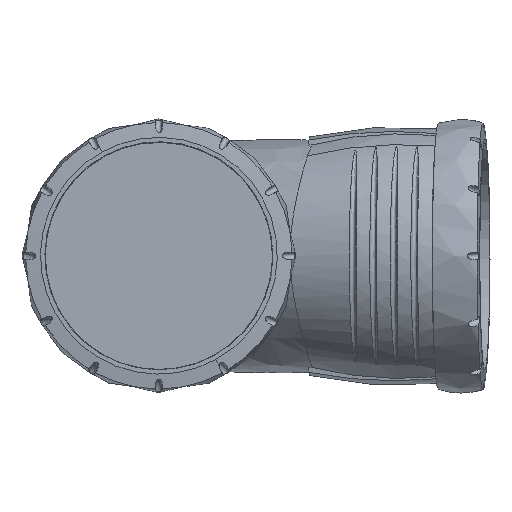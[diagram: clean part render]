
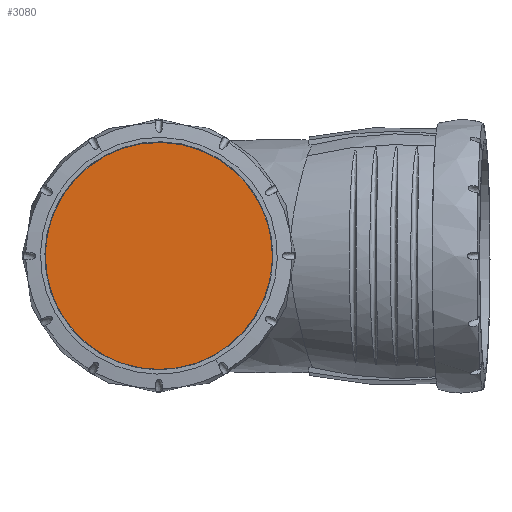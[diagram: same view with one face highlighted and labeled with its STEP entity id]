
A CAD part, top view. The second image highlights one B-rep face of the part: STEP entity #3080.
In plain terms, the highlighted planar face has unit normal (0, 0, 1).
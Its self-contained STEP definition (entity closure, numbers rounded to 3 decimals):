
#522=PLANE('',#3269);
#634=FACE_OUTER_BOUND('',#817,.T.);
#817=EDGE_LOOP('',(#2181,#2182));
#1010=CIRCLE('',#3261,45.45);
#1016=CIRCLE('',#3268,45.45);
#1210=VERTEX_POINT('',#5824);
#1211=VERTEX_POINT('',#5826);
#1572=EDGE_CURVE('',#1210,#1211,#1010,.T.);
#1599=EDGE_CURVE('',#1211,#1210,#1016,.T.);
#2181=ORIENTED_EDGE('',*,*,#1572,.F.);
#2182=ORIENTED_EDGE('',*,*,#1599,.F.);
#3080=ADVANCED_FACE('',(#634),#522,.T.);
#3261=AXIS2_PLACEMENT_3D('',#5827,#3536,#3537);
#3268=AXIS2_PLACEMENT_3D('',#6345,#3553,#3554);
#3269=AXIS2_PLACEMENT_3D('',#6346,#3555,#3556);
#3536=DIRECTION('center_axis',(0.,0.,
-1.));
#3537=DIRECTION('ref_axis',(0.479,-0.878,0.));
#3553=DIRECTION('center_axis',(0.,0.,
-1.));
#3554=DIRECTION('ref_axis',(-0.479,0.878,0.));
#3555=DIRECTION('center_axis',(0.,0.,
1.));
#3556=DIRECTION('ref_axis',(0.627,-0.779,0.));
#5824=CARTESIAN_POINT('',(21.79,-39.886,248.34));
#5826=CARTESIAN_POINT('',(-21.79,39.886,248.34));
#5827=CARTESIAN_POINT('Origin',(0.001,0.001,
248.34));
#6345=CARTESIAN_POINT('Origin',(-0.001,-0.001,
248.34));
#6346=CARTESIAN_POINT('Origin',(-64.407,6.984,248.34));
